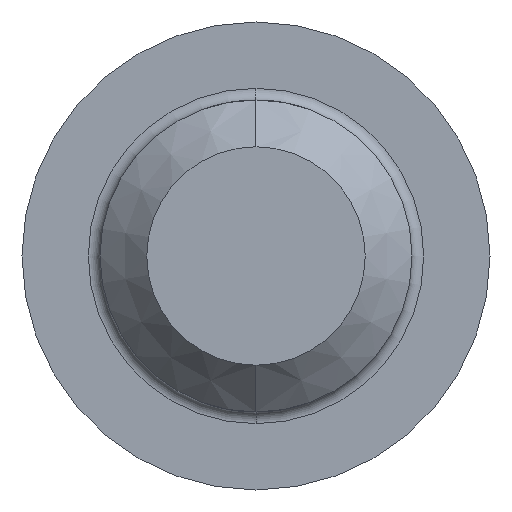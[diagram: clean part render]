
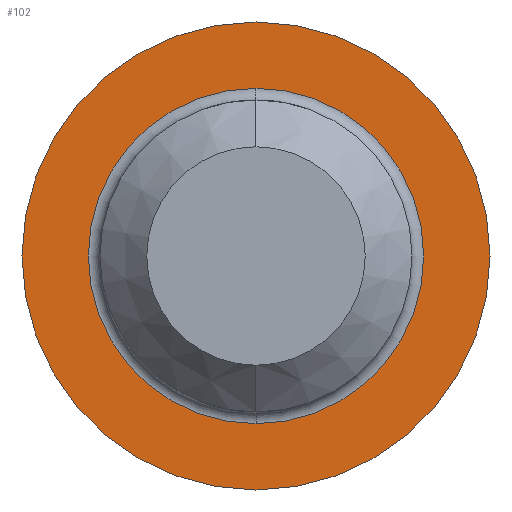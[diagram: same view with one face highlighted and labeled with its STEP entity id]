
A CAD part, left-side view. The second image highlights one B-rep face of the part: STEP entity #102.
In plain terms, the highlighted planar face has unit normal (-1, 0, 0).
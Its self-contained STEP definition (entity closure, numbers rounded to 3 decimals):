
#33 = EDGE_CURVE ( 'NONE', #34, #35, #291, .T. ) ;
#34 = VERTEX_POINT ( 'NONE', #202 ) ;
#35 = VERTEX_POINT ( 'NONE', #329 ) ;
#96 = ORIENTED_EDGE ( 'NONE', *, *, #151, .T. ) ;
#98 = ORIENTED_EDGE ( 'NONE', *, *, #111, .T. ) ;
#102 = ADVANCED_FACE ( 'NONE', ( #374, #366 ), #368, .F. ) ;
#103 = EDGE_LOOP ( 'NONE', ( #96, #98 ) ) ;
#105 = EDGE_LOOP ( 'NONE', ( #115, #108 ) ) ;
#108 = ORIENTED_EDGE ( 'NONE', *, *, #33, .T. ) ;
#111 = EDGE_CURVE ( 'NONE', #155, #121, #349, .T. ) ;
#115 = ORIENTED_EDGE ( 'NONE', *, *, #116, .T. ) ;
#116 = EDGE_CURVE ( 'NONE', #35, #34, #354, .T. ) ;
#121 = VERTEX_POINT ( 'NONE', #337 ) ;
#151 = EDGE_CURVE ( 'NONE', #121, #155, #462, .T. ) ;
#155 = VERTEX_POINT ( 'NONE', #452 ) ;
#159 = CARTESIAN_POINT ( 'NONE',  ( 0., 6., 0. ) ) ;
#199 = DIRECTION ( 'NONE',  ( 0., 0., -1. ) ) ;
#200 = DIRECTION ( 'NONE',  ( 1., 0., 0. ) ) ;
#201 = CARTESIAN_POINT ( 'NONE',  ( 0., 0., 0. ) ) ;
#202 = CARTESIAN_POINT ( 'NONE',  ( 0., 0., 4.3 ) ) ;
#287 = AXIS2_PLACEMENT_3D ( 'NONE', #201, #200, #199 ) ;
#291 = CIRCLE ( 'NONE', #287, 4.3 ) ;
#329 = CARTESIAN_POINT ( 'NONE',  ( 0., 0., -4.3 ) ) ;
#333 = DIRECTION ( 'NONE',  ( 0., 0., -1. ) ) ;
#334 = DIRECTION ( 'NONE',  ( 1., 0., 0. ) ) ;
#335 = AXIS2_PLACEMENT_3D ( 'NONE', #353, #334, #333 ) ;
#337 = CARTESIAN_POINT ( 'NONE',  ( 0., 0., 6. ) ) ;
#343 = DIRECTION ( 'NONE',  ( 0., 0., 1. ) ) ;
#344 = DIRECTION ( 'NONE',  ( -1., 0., 0. ) ) ;
#345 = AXIS2_PLACEMENT_3D ( 'NONE', #348, #344, #343 ) ;
#348 = CARTESIAN_POINT ( 'NONE',  ( 0., 0., 0. ) ) ;
#349 = CIRCLE ( 'NONE', #345, 6. ) ;
#351 = DIRECTION ( 'NONE',  ( 0., 0., -1. ) ) ;
#352 = DIRECTION ( 'NONE',  ( 1., 0., 0. ) ) ;
#353 = CARTESIAN_POINT ( 'NONE',  ( 0., 0., 0. ) ) ;
#354 = CIRCLE ( 'NONE', #335, 4.3 ) ;
#365 = AXIS2_PLACEMENT_3D ( 'NONE', #159, #352, #351 ) ;
#366 = FACE_OUTER_BOUND ( 'NONE', #103, .T. ) ;
#368 = PLANE ( 'NONE',  #365 ) ;
#374 = FACE_BOUND ( 'NONE', #105, .T. ) ;
#452 = CARTESIAN_POINT ( 'NONE',  ( 0., 0., -6. ) ) ;
#453 = DIRECTION ( 'NONE',  ( 0., 0., 1. ) ) ;
#454 = DIRECTION ( 'NONE',  ( -1., 0., 0. ) ) ;
#455 = CARTESIAN_POINT ( 'NONE',  ( 0., 0., 0. ) ) ;
#456 = AXIS2_PLACEMENT_3D ( 'NONE', #455, #454, #453 ) ;
#462 = CIRCLE ( 'NONE', #456, 6. ) ;
